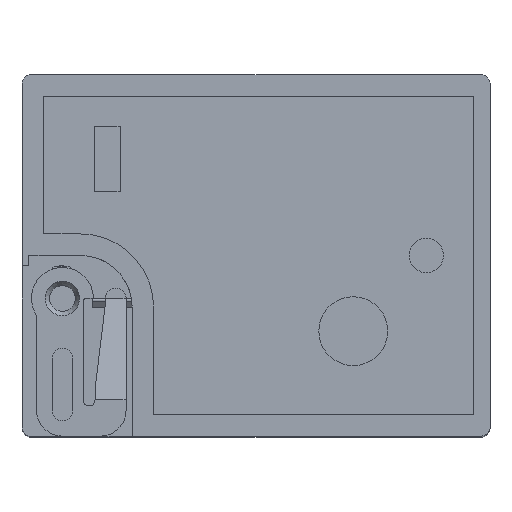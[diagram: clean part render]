
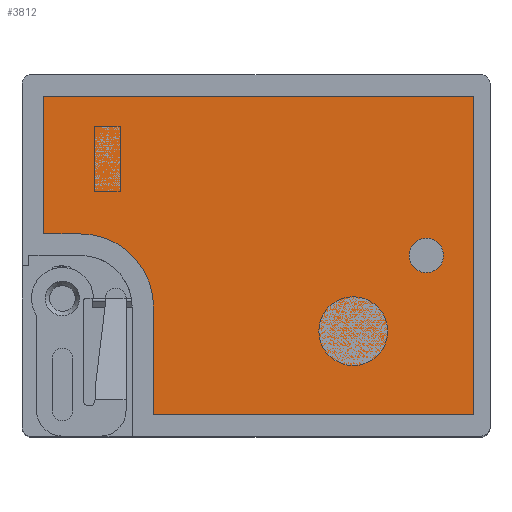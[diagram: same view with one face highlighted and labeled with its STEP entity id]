
A CAD part, top view. The second image highlights one B-rep face of the part: STEP entity #3812.
In plain terms, the highlighted planar face has unit normal (0, 0, 1) as drawn and (0, 0, -1) by its records, which use the part's own axes.
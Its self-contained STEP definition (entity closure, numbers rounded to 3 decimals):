
#2654=PLANE('',#22738);
#2947=FACE_BOUND('',#6373,.T.);
#2948=FACE_BOUND('',#6374,.T.);
#3812=ADVANCED_FACE('',(#2947,#2948),#2654,.T.);
#6373=EDGE_LOOP('',(#15177));
#6374=EDGE_LOOP('',(#15178,#15179,#15180,#15181,#15182,#15183,#15184));
#8390=LINE('',#40289,#10378);
#8392=LINE('',#40293,#10380);
#8394=LINE('',#40297,#10382);
#8397=LINE('',#40305,#10385);
#8399=LINE('',#40309,#10387);
#8401=LINE('',#40313,#10389);
#10378=VECTOR('',#27377,1.);
#10380=VECTOR('',#27381,1.);
#10382=VECTOR('',#27385,1.);
#10385=VECTOR('',#27394,1.);
#10387=VECTOR('',#27398,1.);
#10389=VECTOR('',#27402,1.);
#15177=ORIENTED_EDGE('',*,*,#20534,.F.);
#15178=ORIENTED_EDGE('',*,*,#20521,.F.);
#15179=ORIENTED_EDGE('',*,*,#20533,.F.);
#15180=ORIENTED_EDGE('',*,*,#20531,.T.);
#15181=ORIENTED_EDGE('',*,*,#20529,.T.);
#15182=ORIENTED_EDGE('',*,*,#20528,.F.);
#15183=ORIENTED_EDGE('',*,*,#20525,.F.);
#15184=ORIENTED_EDGE('',*,*,#20523,.F.);
#17933=VERTEX_POINT('',#40288);
#17934=VERTEX_POINT('',#40290);
#17935=VERTEX_POINT('',#40294);
#17936=VERTEX_POINT('',#40298);
#17937=VERTEX_POINT('',#40302);
#17938=VERTEX_POINT('',#40306);
#17939=VERTEX_POINT('',#40310);
#17940=VERTEX_POINT('',#40316);
#20521=EDGE_CURVE('',#17933,#17934,#8390,.T.);
#20523=EDGE_CURVE('',#17934,#17935,#8392,.T.);
#20525=EDGE_CURVE('',#17935,#17936,#8394,.T.);
#20528=EDGE_CURVE('',#17936,#17937,#21343,.T.);
#20529=EDGE_CURVE('',#17938,#17937,#8397,.T.);
#20531=EDGE_CURVE('',#17939,#17938,#8399,.T.);
#20533=EDGE_CURVE('',#17939,#17933,#8401,.T.);
#20534=EDGE_CURVE('',#17940,#17940,#21344,.T.);
#21343=CIRCLE('',#22732,4.25);
#21344=CIRCLE('',#22737,1.);
#22732=AXIS2_PLACEMENT_3D('',#40303,#27390,#27391);
#22737=AXIS2_PLACEMENT_3D('',#40315,#27405,#27406);
#22738=AXIS2_PLACEMENT_3D('',#40317,#27407,#27408);
#27377=DIRECTION('',(1.,0.,0.));
#27381=DIRECTION('',(0.,1.,0.));
#27385=DIRECTION('',(-1.,0.,0.));
#27390=DIRECTION('',(0.,0.,-1.));
#27391=DIRECTION('',(-1.,0.,0.));
#27394=DIRECTION('',(0.,-1.,0.));
#27398=DIRECTION('',(1.,0.,0.));
#27402=DIRECTION('',(0.,-1.,0.));
#27405=DIRECTION('',(0.,0.,-1.));
#27406=DIRECTION('',(-1.,0.,0.));
#27407=DIRECTION('',(0.,0.,-1.));
#27408=DIRECTION('',(-1.,0.,0.));
#40288=CARTESIAN_POINT('',(-9.25,-12.65,-29.6));
#40289=CARTESIAN_POINT('',(-9.25,-12.65,-29.6));
#40290=CARTESIAN_POINT('',(9.25,-12.65,-29.6));
#40293=CARTESIAN_POINT('',(9.25,-12.65,-29.6));
#40294=CARTESIAN_POINT('',(9.25,5.95,-29.6));
#40297=CARTESIAN_POINT('',(9.25,5.95,-29.6));
#40298=CARTESIAN_POINT('',(3.,5.95,-29.6));
#40302=CARTESIAN_POINT('',(-1.25,10.2,-29.6));
#40303=CARTESIAN_POINT('',(3.,10.2,-29.6));
#40305=CARTESIAN_POINT('',(-1.25,12.35,-29.6));
#40306=CARTESIAN_POINT('',(-1.25,12.35,-29.6));
#40309=CARTESIAN_POINT('',(-9.25,12.35,-29.6));
#40310=CARTESIAN_POINT('',(-9.25,12.35,-29.6));
#40313=CARTESIAN_POINT('',(-9.25,12.35,-29.6));
#40315=CARTESIAN_POINT('',(0.,-9.9,-29.6));
#40316=CARTESIAN_POINT('',(-1.,-9.9,-29.6));
#40317=CARTESIAN_POINT('',(1.35,8.95,-29.6));
